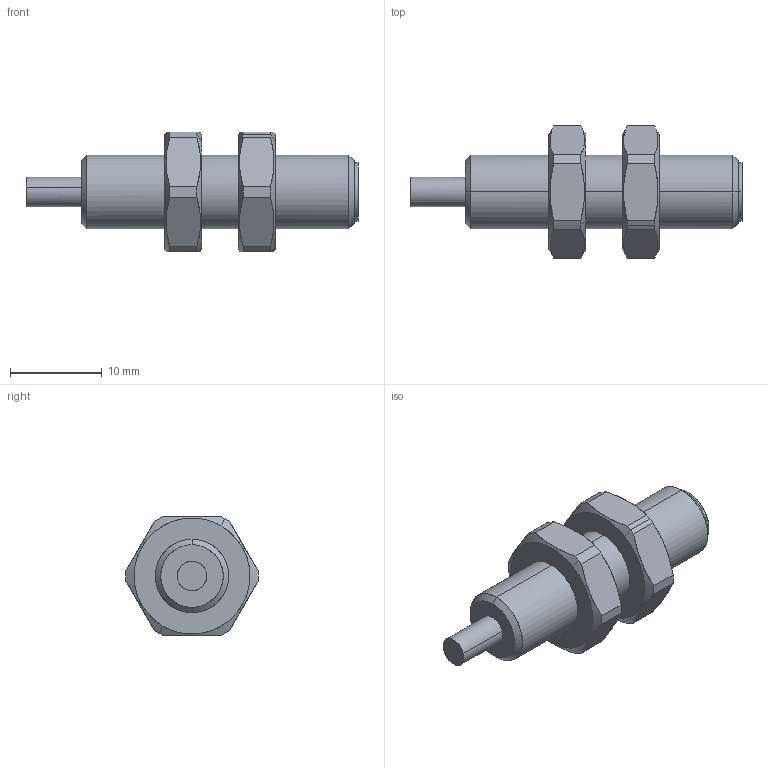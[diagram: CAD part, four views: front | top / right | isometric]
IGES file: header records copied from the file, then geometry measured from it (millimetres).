
Start section: Comment
Global section: file name: IFRM 08x1707.igs; native system:  By Spatial Corp.; preprocessor: XPlus GENERIC/IGES 3.0; author: Author; organization: Title; date: 20040805.075336; units: inch
Bounding box: 36.1 x 14.36 x 13 mm (x, y, z)
Surface area: 1790.3 mm2 (no closed solid volume)
Topology: 0 solids, 0 shells, 64 faces, 304 edges, 304 vertices
Faces by surface type: bspline 64
